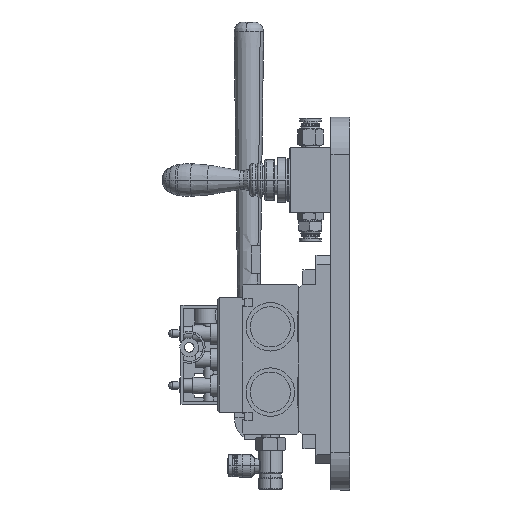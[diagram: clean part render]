
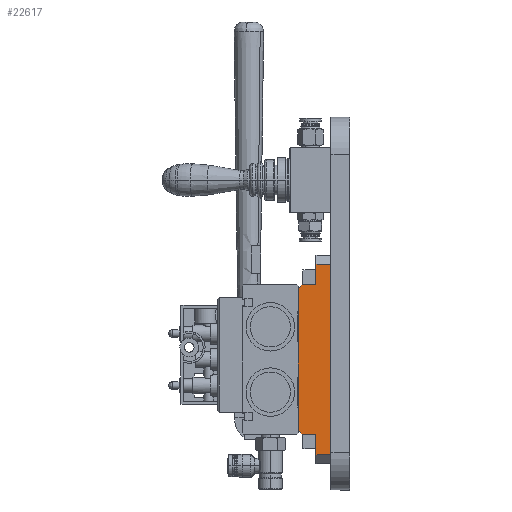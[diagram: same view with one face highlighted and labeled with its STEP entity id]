
A CAD part, left-side view. The second image highlights one B-rep face of the part: STEP entity #22617.
In plain terms, the highlighted planar face has unit normal (-1, 0, 0) as drawn and (1, 0, 0) by its records, which use the part's own axes.
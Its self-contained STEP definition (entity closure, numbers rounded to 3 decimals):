
#2223 = ORIENTED_EDGE ( 'NONE', *, *, #24296, .F. ) ;
#2305 = VECTOR ( 'NONE', #25662, 1000. ) ;
#2716 = ORIENTED_EDGE ( 'NONE', *, *, #23138, .T. ) ;
#3216 = CARTESIAN_POINT ( 'NONE',  ( 0., -38., 17.5 ) ) ;
#3834 = EDGE_CURVE ( 'NONE', #22981, #41671, #48868, .T. ) ;
#4427 = VERTEX_POINT ( 'NONE', #46886 ) ;
#5467 = ORIENTED_EDGE ( 'NONE', *, *, #3834, .T. ) ;
#6238 = ORIENTED_EDGE ( 'NONE', *, *, #17142, .F. ) ;
#6264 = ORIENTED_EDGE ( 'NONE', *, *, #45144, .T. ) ;
#6290 = CARTESIAN_POINT ( 'NONE',  ( 0., -40., 8. ) ) ;
#8704 = VERTEX_POINT ( 'NONE', #35014 ) ;
#9208 = LINE ( 'NONE', #25815, #60893 ) ;
#9286 = PLANE ( 'NONE',  #64365 ) ;
#10085 = DIRECTION ( 'NONE',  ( 0., -0.707, 0.707 ) ) ;
#11947 = CARTESIAN_POINT ( 'NONE',  ( 0., 51., 0. ) ) ;
#15231 = VERTEX_POINT ( 'NONE', #40695 ) ;
#15516 = EDGE_CURVE ( 'NONE', #25049, #38557, #43992, .T. ) ;
#16033 = LINE ( 'NONE', #46129, #2305 ) ;
#16675 = CARTESIAN_POINT ( 'NONE',  ( 0., 51., 8. ) ) ;
#16868 = ORIENTED_EDGE ( 'NONE', *, *, #15516, .T. ) ;
#17142 = EDGE_CURVE ( 'NONE', #22981, #4427, #34117, .T. ) ;
#18236 = ORIENTED_EDGE ( 'NONE', *, *, #60633, .T. ) ;
#19951 = DIRECTION ( 'NONE',  ( 0., 0., -1. ) ) ;
#20095 = VECTOR ( 'NONE', #32554, 1000. ) ;
#20245 = CARTESIAN_POINT ( 'NONE',  ( 0., -40., 0. ) ) ;
#22340 = DIRECTION ( 'NONE',  ( 0., 0., 1. ) ) ;
#22617 = ADVANCED_FACE ( 'NONE', ( #50216 ), #9286, .T. ) ;
#22981 = VERTEX_POINT ( 'NONE', #3216 ) ;
#23138 = EDGE_CURVE ( 'NONE', #38557, #23743, #9208, .T. ) ;
#23743 = VERTEX_POINT ( 'NONE', #25741 ) ;
#24296 = EDGE_CURVE ( 'NONE', #15231, #41671, #39764, .T. ) ;
#24755 = EDGE_CURVE ( 'NONE', #8704, #56000, #57368, .T. ) ;
#25040 = LINE ( 'NONE', #41111, #47556 ) ;
#25049 = VERTEX_POINT ( 'NONE', #48510 ) ;
#25662 = DIRECTION ( 'NONE',  ( 0., 0., 1. ) ) ;
#25741 = CARTESIAN_POINT ( 'NONE',  ( 0., 40., 8. ) ) ;
#25815 = CARTESIAN_POINT ( 'NONE',  ( 0., 40., 8. ) ) ;
#26051 = VECTOR ( 'NONE', #30743, 1000. ) ;
#28699 = VECTOR ( 'NONE', #22340, 1000. ) ;
#29845 = CARTESIAN_POINT ( 'NONE',  ( 0., -40., 0. ) ) ;
#30200 = DIRECTION ( 'NONE',  ( 0., 1., 0. ) ) ;
#30346 = VECTOR ( 'NONE', #60618, 1000. ) ;
#30743 = DIRECTION ( 'NONE',  ( 0., 0., 1. ) ) ;
#31052 = DIRECTION ( 'NONE',  ( 0., -1., 0. ) ) ;
#32017 = VECTOR ( 'NONE', #57112, 1000. ) ;
#32554 = DIRECTION ( 'NONE',  ( 0., -1., 0. ) ) ;
#33878 = LINE ( 'NONE', #6290, #20095 ) ;
#34117 = LINE ( 'NONE', #56569, #59849 ) ;
#35014 = CARTESIAN_POINT ( 'NONE',  ( 0., -51., 8. ) ) ;
#35565 = CARTESIAN_POINT ( 'NONE',  ( 0., -51., 0. ) ) ;
#38557 = VERTEX_POINT ( 'NONE', #16675 ) ;
#38903 = CARTESIAN_POINT ( 'NONE',  ( 0., 40., 15.5 ) ) ;
#39764 = LINE ( 'NONE', #20245, #26051 ) ;
#40695 = CARTESIAN_POINT ( 'NONE',  ( 0., -40., 8. ) ) ;
#41111 = CARTESIAN_POINT ( 'NONE',  ( 0., 7.75, 47.75 ) ) ;
#41612 = CARTESIAN_POINT ( 'NONE',  ( 0., -47.75, 7.75 ) ) ;
#41671 = VERTEX_POINT ( 'NONE', #49272 ) ;
#43697 = VECTOR ( 'NONE', #19951, 1000. ) ;
#43992 = LINE ( 'NONE', #11947, #28699 ) ;
#45144 = EDGE_CURVE ( 'NONE', #52442, #4427, #25040, .T. ) ;
#45622 = LINE ( 'NONE', #29845, #30346 ) ;
#46129 = CARTESIAN_POINT ( 'NONE',  ( 0., 40., 0. ) ) ;
#46459 = EDGE_CURVE ( 'NONE', #56000, #25049, #45622, .T. ) ;
#46886 = CARTESIAN_POINT ( 'NONE',  ( 0., 38., 17.5 ) ) ;
#47556 = VECTOR ( 'NONE', #10085, 1000. ) ;
#48510 = CARTESIAN_POINT ( 'NONE',  ( 0., 51., 0. ) ) ;
#48868 = LINE ( 'NONE', #41612, #32017 ) ;
#49272 = CARTESIAN_POINT ( 'NONE',  ( 0., -40., 15.5 ) ) ;
#50216 = FACE_OUTER_BOUND ( 'NONE', #52995, .T. ) ;
#52442 = VERTEX_POINT ( 'NONE', #38903 ) ;
#52995 = EDGE_LOOP ( 'NONE', ( #64714, #66645, #66336, #16868, #2716, #18236, #6264, #6238, #5467, #2223 ) ) ;
#54029 = CARTESIAN_POINT ( 'NONE',  ( 0., -51., 0. ) ) ;
#55129 = CARTESIAN_POINT ( 'NONE',  ( 0., -40., 0. ) ) ;
#56000 = VERTEX_POINT ( 'NONE', #54029 ) ;
#56569 = CARTESIAN_POINT ( 'NONE',  ( 0., -40., 17.5 ) ) ;
#57112 = DIRECTION ( 'NONE',  ( 0., -0.707, -0.707 ) ) ;
#57368 = LINE ( 'NONE', #35565, #43697 ) ;
#58608 = EDGE_CURVE ( 'NONE', #15231, #8704, #33878, .T. ) ;
#59849 = VECTOR ( 'NONE', #61702, 1000. ) ;
#60618 = DIRECTION ( 'NONE',  ( 0., 1., 0. ) ) ;
#60633 = EDGE_CURVE ( 'NONE', #23743, #52442, #16033, .T. ) ;
#60893 = VECTOR ( 'NONE', #31052, 1000. ) ;
#60968 = DIRECTION ( 'NONE',  ( 1., 0., 0. ) ) ;
#61702 = DIRECTION ( 'NONE',  ( 0., 1., 0. ) ) ;
#64365 = AXIS2_PLACEMENT_3D ( 'NONE', #55129, #60968, #30200 ) ;
#64714 = ORIENTED_EDGE ( 'NONE', *, *, #58608, .T. ) ;
#66336 = ORIENTED_EDGE ( 'NONE', *, *, #46459, .T. ) ;
#66645 = ORIENTED_EDGE ( 'NONE', *, *, #24755, .T. ) ;
